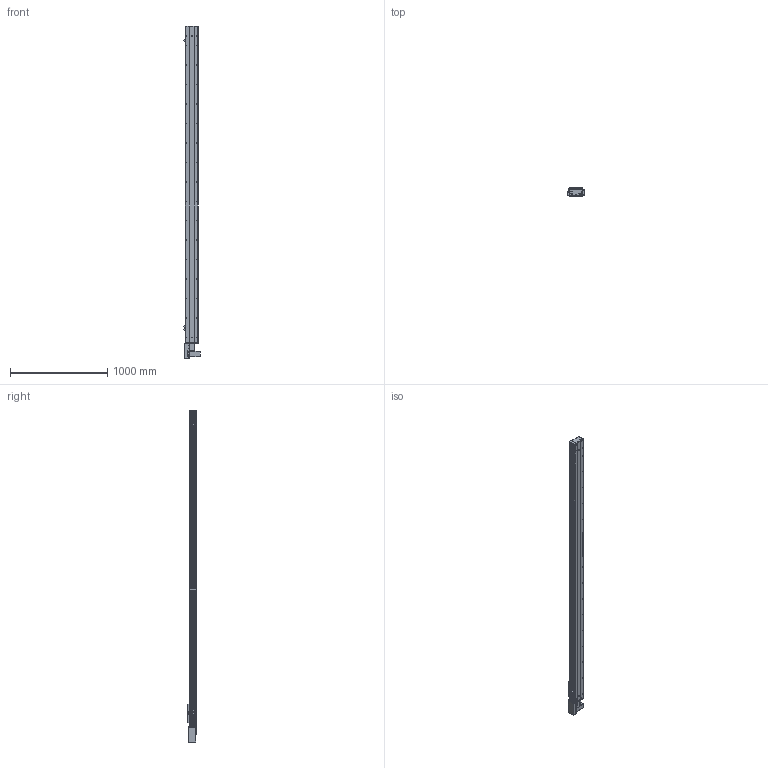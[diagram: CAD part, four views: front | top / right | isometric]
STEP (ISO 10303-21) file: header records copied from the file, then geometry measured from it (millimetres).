
FILE_DESCRIPTION (( 'STEP AP203' ), '1' );
FILE_NAME ('Y135CB-D90-S2950-BR-P400W.STEP', '2020-02-18T03:19:33', ( '微软用户' ), ( '微软中国' ), 'SwSTEP 2.0', 'SolidWorks 2017', '' );
FILE_SCHEMA (( 'CONFIG_CONTROL_DESIGN' ));
Length unit declared in the file: millimetre
Products named in the file (18): Y100-135俋离換覜ん--; Y俋欶BR----; Y135CB-耜裔; Y135C-陔俋离換覜結え-; 0B-埴倛裔啣; 5C--俋欶; 0B-源倛裔啣; C-雄赽釱--; 0B-萇儂楊擘啣; Y10B--々湍喘謫眊--666; san松下电机400不带刹车----; Y135CB-D90-S2950-BR-P400W; 5CB --掛极耜裔啣-; 135CB---遴掛极.-; C-詩湍揤踡え-陔; 35CB---喘謫眊楊擘啣; 135CB--詩湍-CE; Y10B-耜蚾蟀諉啣----
Assembly tree (21 placements, depth 2):
  Y135CB-D90-S2950-BR-P400W
    Y135CB-耜裔
    135CB---遴掛极.-
    35CB---喘謫眊楊擘啣
    Y10B-耜蚾蟀諉啣----
    Y俋欶BR----
    0B-埴倛裔啣
    0B-源倛裔啣
    0B-萇儂楊擘啣
    san松下电机400不带刹车----
    5CB --掛极耜裔啣-  x2
    C-詩湍揤踡え-陔  x2
    135CB--詩湍-CE
    Y100-135俋离換覜ん--  x3
    Y135C-陔俋离換覜結え-
    5C--俋欶
    C-雄赽釱--
    Y10B--々湍喘謫眊--666
Bounding box: 167.5 x 91 x 3414.5 mm (x, y, z)
Volume: 9451222.3 mm3; surface area: 3750269.8 mm2
Topology: 21 solids, 21 shells, 985 faces, 2707 edges, 1794 vertices
Faces by surface type: cylinder 511, plane 458, cone 16
Entity records: 31361 total; most frequent: CARTESIAN_POINT 5252, DIRECTION 5211, ORIENTED_EDGE 4890, EDGE_CURVE 2445, AXIS2_PLACEMENT_3D 1913, VERTEX_POINT 1622, VECTOR 1385, LINE 1385
